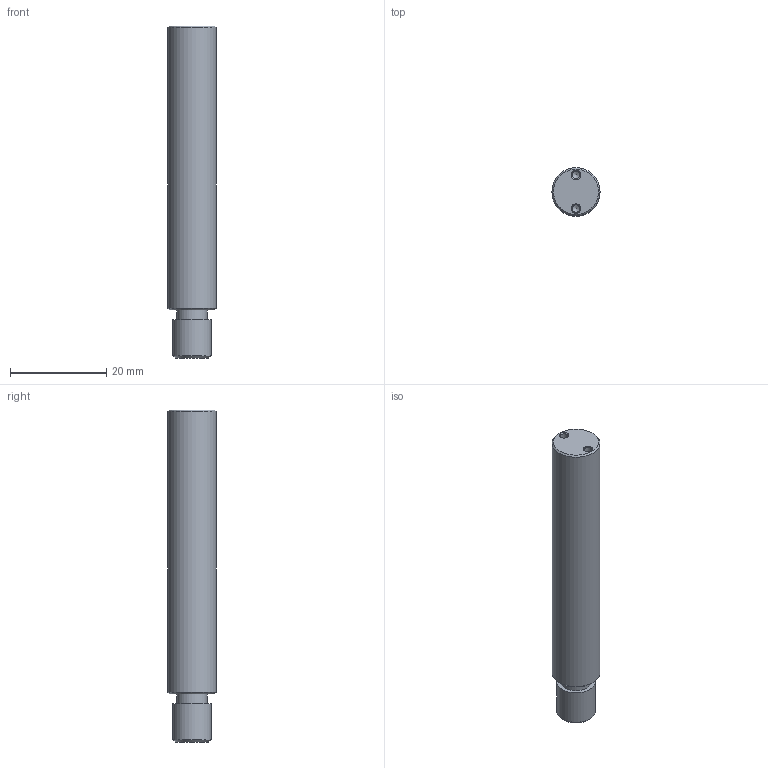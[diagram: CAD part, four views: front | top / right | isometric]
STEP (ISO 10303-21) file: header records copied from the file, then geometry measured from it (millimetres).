
FILE_DESCRIPTION(/* description */ (''),/* implementation_level */ '2;1');
FILE_NAME(/* name */ '2020TOMO-CRIMP.08.stp',/* time_stamp */ '2021-01-20T14:50:47+01:00',/* author */ (''),/* organization */ (''),/* preprocessor_version */ 'ST-DEVELOPER v16.7',/* originating_system */ 'SIEMENS PLM Software NX 1892',/* authorisation */ '');
FILE_SCHEMA (('AUTOMOTIVE_DESIGN { 1 0 10303 214 3 1 1 1 }'));
Length unit declared in the file: millimetre
Products named in the file (1): turc131041948isx
Bounding box: 10 x 10 x 69 mm (x, y, z)
Volume: 5071.4 mm3; surface area: 2324.3 mm2
Topology: 1 solids, 1 shells, 16 faces, 33 edges, 21 vertices
Faces by surface type: cone 7, cylinder 5, plane 4
Full cylindrical faces by diameter (mm): 1.6 x2, 6.4 x1, 8 x1, 10 x1
Entity records: 354 total; most frequent: DIRECTION 64, CARTESIAN_POINT 49, AXIS2_PLACEMENT_3D 32, FACE_BOUND 31, EDGE_LOOP 30, ORIENTED_EDGE 30, VERTEX_POINT 17, ADVANCED_FACE 16
